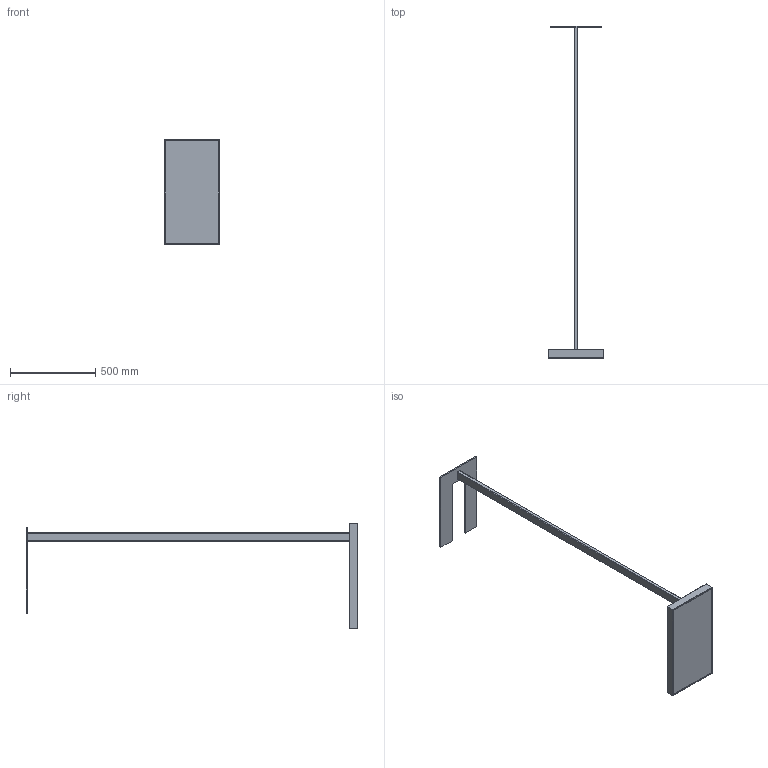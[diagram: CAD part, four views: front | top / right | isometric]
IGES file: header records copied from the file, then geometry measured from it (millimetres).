
Global section: file name: SPECTRASOL_TERRA(primitive); native system: unknown; preprocessor: unknown; author: unknown; organization: unknown; date: 20240527.102806; units: millimetre
Bounding box: 325 x 1941 x 615 mm (x, y, z)
Volume: 12603279.4 mm3; surface area: 989899.2 mm2
Topology: 1 solids, 1 shells, 72 faces, 188 edges, 120 vertices
Faces by surface type: bspline 72
